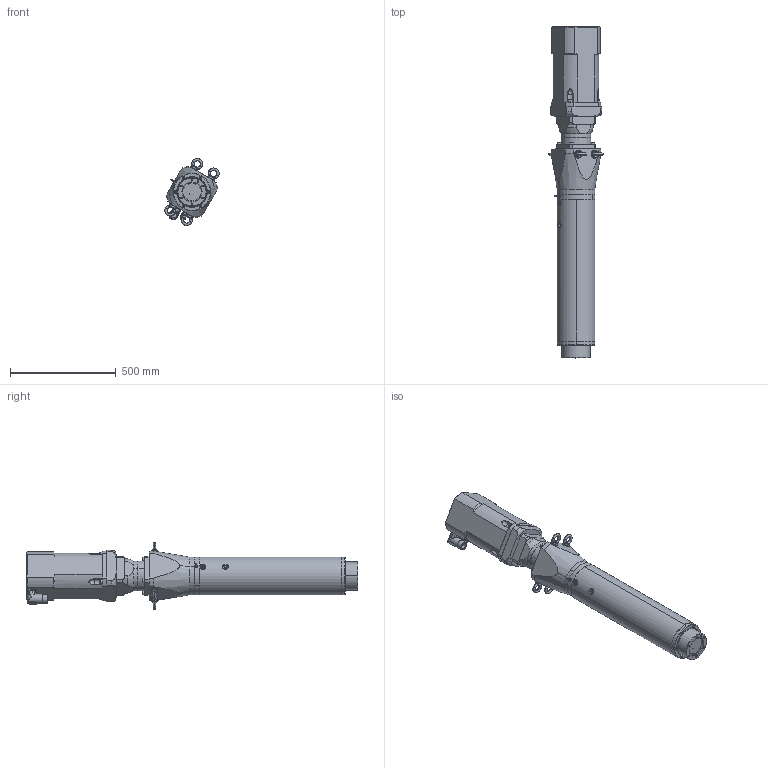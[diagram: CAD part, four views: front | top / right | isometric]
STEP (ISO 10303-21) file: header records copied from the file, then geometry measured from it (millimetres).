
FILE_DESCRIPTION (( 'STEP AP203' ), '1' );
FILE_NAME ('LN5I1000-035-020HG0.STEP', '2014-11-18T07:26:31', ( 'Holtz' ), ( '' ), 'SwSTEP 2.0', 'SolidWorks 2013', '' );
FILE_SCHEMA (( 'CONFIG_CONTROL_DESIGN' ));
Length unit declared in the file: millimetre
Products named in the file (1): LN5I1000-035-020HG0
Bounding box: 257.94 x 1571 x 317.97 mm (x, y, z)
Volume: 33932487.4 mm3; surface area: 2344708 mm2
Topology: 33 solids, 33 shells, 1175 faces, 2775 edges, 1648 vertices
Faces by surface type: cylinder 460, plane 361, cone 196, torus 82, bspline 74, sphere 2
Entity records: 39412 total; most frequent: CARTESIAN_POINT 12754, DIRECTION 5804, ORIENTED_EDGE 5266, EDGE_CURVE 2633, AXIS2_PLACEMENT_3D 2322, VERTEX_POINT 1648, EDGE_LOOP 1389, CIRCLE 1220
